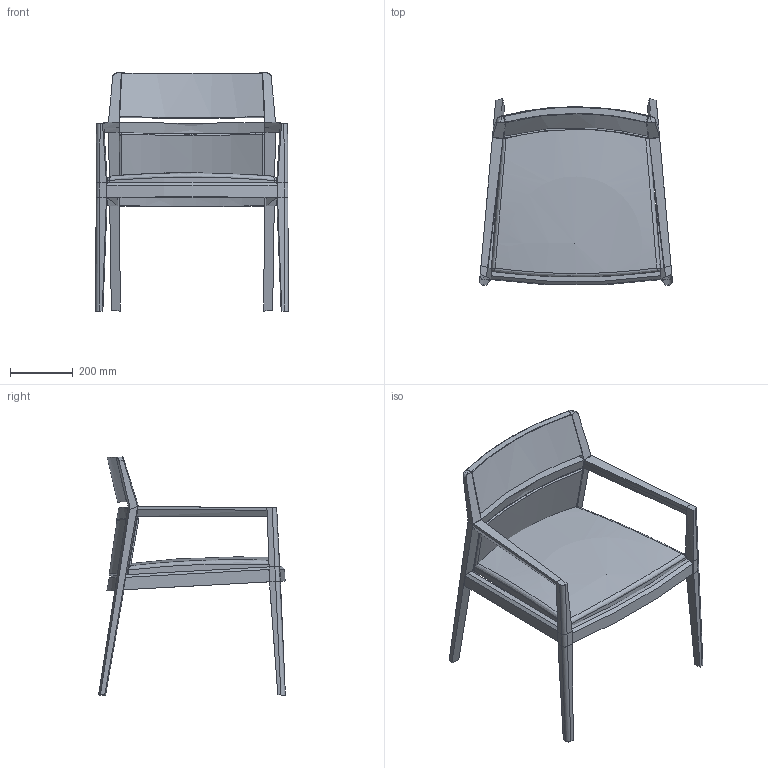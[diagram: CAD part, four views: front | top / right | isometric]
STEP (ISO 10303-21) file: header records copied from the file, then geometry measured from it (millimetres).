
FILE_DESCRIPTION(/* description */ ('','CAx-IF Rec.Pracs.---Representation and Presentation of Product Manufacturing Information (PMI)---4.0---2014-10-13'),/* implementation_level */ '2;1');
FILE_NAME(/* name */ 'Pentero_230_LU.step',/* time_stamp */ '2025-02-18T08:12:29-08:00',/* author */ (''),/* organization */ (''),/* preprocessor_version */ 'ST-DEVELOPER v20',/* originating_system */ 'Autodesk Translation Framework v13.20.0.188',/* authorisation */ '');
FILE_SCHEMA (('AP242_MANAGED_MODEL_BASED_3D_ENGINEERING_MIM_LF { 1 0 10303 442 1 1 4 }'));
Length unit declared in the file: inch
Products named in the file (1): 1
Bounding box: 614.51 x 595.49 x 759.04 mm (x, y, z)
Volume: 19011123.2 mm3; surface area: 1673304.7 mm2
Topology: 13 solids, 14 shells, 239 faces, 592 edges, 375 vertices
Faces by surface type: bspline 118, plane 63, cylinder 49, sphere 9
Full cylindrical faces by diameter (mm): 6 x2, 13.155 x2
Entity records: 10039 total; most frequent: CARTESIAN_POINT 5312, ORIENTED_EDGE 1159, DIRECTION 643, EDGE_CURVE 582, VERTEX_POINT 375, B_SPLINE_CURVE_WITH_KNOTS 258, EDGE_LOOP 245, FACE_OUTER_BOUND 239
